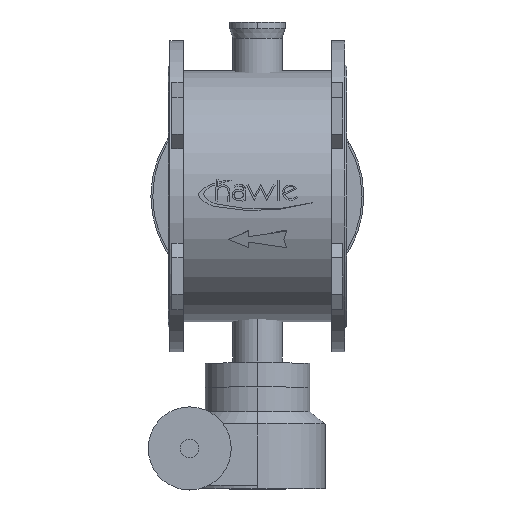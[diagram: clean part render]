
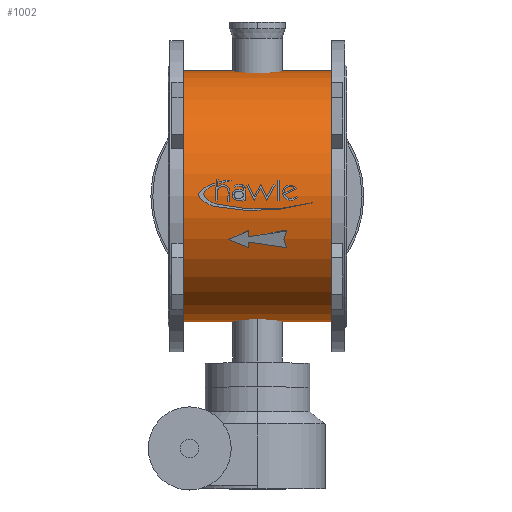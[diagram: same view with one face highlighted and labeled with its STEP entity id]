
A CAD part, top view. The second image highlights one B-rep face of the part: STEP entity #1002.
In plain terms, the highlighted cylindrical face has radius 204 mm (diameter 408 mm), a partial arc.
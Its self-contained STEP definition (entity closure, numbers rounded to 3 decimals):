
#1002=ADVANCED_FACE('',(#2087),#2088,.T.);
#2087=FACE_OUTER_BOUND('',#3675,.T.);
#2088=CYLINDRICAL_SURFACE('',#3676,204.0);
#3675=EDGE_LOOP('',(#5261,#5262,#5263,#5264));
#3676=AXIS2_PLACEMENT_3D('',#5265,#5266,#5267);
#5261=ORIENTED_EDGE('',*,*,#8407,.T.);
#5262=ORIENTED_EDGE('',*,*,#8408,.T.);
#5263=ORIENTED_EDGE('',*,*,#8409,.T.);
#5264=ORIENTED_EDGE('',*,*,#8410,.T.);
#5265=CARTESIAN_POINT('',(-265.5,0.,0.0));
#5266=DIRECTION('',(1.0,0.,0.0));
#5267=DIRECTION('',(0.,-1.0,0.0));
#8407=EDGE_CURVE('',#9909,#9910,#9911,.T.);
#8408=EDGE_CURVE('',#9910,#9912,#9913,.T.);
#8409=EDGE_CURVE('',#9912,#9914,#9915,.T.);
#8410=EDGE_CURVE('',#9914,#9909,#9916,.T.);
#9909=VERTEX_POINT('',#11902);
#9910=VERTEX_POINT('',#11903);
#9911=LINE('',#11904,#11905);
#9912=VERTEX_POINT('',#11906);
#9913=CIRCLE('',#11907,204.0);
#9914=VERTEX_POINT('',#11908);
#9915=LINE('',#11909,#11910);
#9916=CIRCLE('',#11911,204.0);
#11902=CARTESIAN_POINT('',(-265.5,-204.0,0.0));
#11903=CARTESIAN_POINT('',(-24.5,-204.0,0.0));
#11904=CARTESIAN_POINT('',(-265.5,-204.0,0.));
#11905=VECTOR('',#14077,1.0);
#11906=CARTESIAN_POINT('',(-24.5,204.0,0.));
#11907=AXIS2_PLACEMENT_3D('',#14078,#14079,#14080);
#11908=CARTESIAN_POINT('',(-265.5,204.0,0.));
#11909=CARTESIAN_POINT('',(-265.5,204.0,0.));
#11910=VECTOR('',#14081,1.0);
#11911=AXIS2_PLACEMENT_3D('',#14082,#14083,#14084);
#14077=DIRECTION('',(1.0,0.,0.0));
#14078=CARTESIAN_POINT('',(-24.5,0.,0.0));
#14079=DIRECTION('',(-1.0,0.,0.0));
#14080=DIRECTION('',(0.,-1.0,0.0));
#14081=DIRECTION('',(-1.0,0.,-0.0));
#14082=CARTESIAN_POINT('',(-265.5,0.,0.0));
#14083=DIRECTION('',(1.0,0.,0.0));
#14084=DIRECTION('',(0.,-1.0,0.0));
